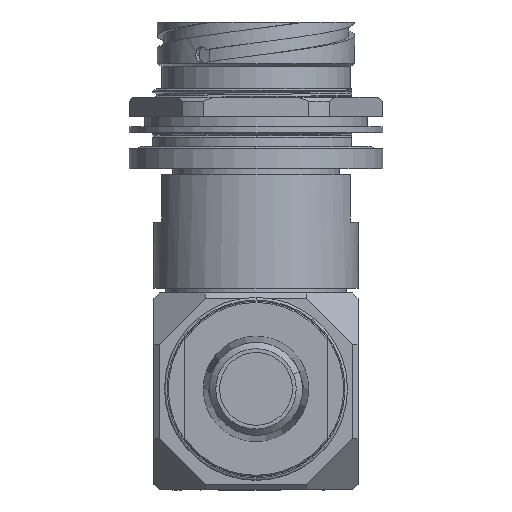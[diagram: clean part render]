
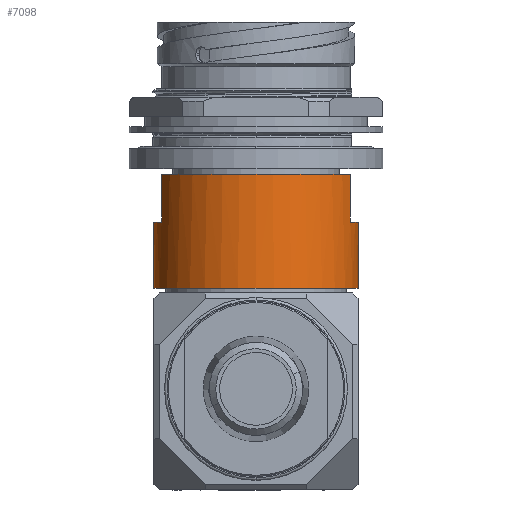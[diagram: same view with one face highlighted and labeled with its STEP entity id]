
A CAD part, front view. The second image highlights one B-rep face of the part: STEP entity #7098.
In plain terms, the highlighted cylindrical face has radius 20.447 mm (diameter 40.894 mm), a partial arc.
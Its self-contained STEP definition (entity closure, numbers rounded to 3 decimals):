
#83 = CARTESIAN_POINT ( 'NONE',  ( 18.796, -8.049, -30.328 ) ) ;
#1196 = EDGE_CURVE ( 'NONE', #6498, #8270, #20455, .T. ) ;
#1426 = EDGE_CURVE ( 'NONE', #11090, #14291, #17812, .T. ) ;
#1549 = AXIS2_PLACEMENT_3D ( 'NONE', #16139, #17998, #2817 ) ;
#1737 = CYLINDRICAL_SURFACE ( 'NONE', #15496, 20.447 ) ;
#1987 = CIRCLE ( 'NONE', #5558, 20.447 ) ;
#2817 = DIRECTION ( 'NONE',  ( 1., 0., 0. ) ) ;
#3221 = ORIENTED_EDGE ( 'NONE', *, *, #17745, .F. ) ;
#3642 = CARTESIAN_POINT ( 'NONE',  ( 0., 0., -39.853 ) ) ;
#3736 = ORIENTED_EDGE ( 'NONE', *, *, #1196, .T. ) ;
#4511 = LINE ( 'NONE', #12099, #8709 ) ;
#5558 = AXIS2_PLACEMENT_3D ( 'NONE', #22030, #10702, #14076 ) ;
#5883 = ORIENTED_EDGE ( 'NONE', *, *, #13841, .T. ) ;
#6045 = VERTEX_POINT ( 'NONE', #21693 ) ;
#6498 = VERTEX_POINT ( 'NONE', #6829 ) ;
#6829 = CARTESIAN_POINT ( 'NONE',  ( -20.447, 0., -39.853 ) ) ;
#6893 = LINE ( 'NONE', #8384, #17706 ) ;
#7002 = VECTOR ( 'NONE', #12213, 1000. ) ;
#7098 = ADVANCED_FACE ( 'NONE', ( #15311 ), #1737, .T. ) ;
#7597 = ORIENTED_EDGE ( 'NONE', *, *, #1426, .F. ) ;
#7599 = EDGE_CURVE ( 'NONE', #6045, #8270, #20635, .T. ) ;
#8270 = VERTEX_POINT ( 'NONE', #24286 ) ;
#8384 = CARTESIAN_POINT ( 'NONE',  ( -18.796, -8.049, -30.328 ) ) ;
#8709 = VECTOR ( 'NONE', #23555, 1000. ) ;
#8934 = CARTESIAN_POINT ( 'NONE',  ( 20.447, 0., -39.853 ) ) ;
#9079 = DIRECTION ( 'NONE',  ( 1., 0., 0. ) ) ;
#9303 = ORIENTED_EDGE ( 'NONE', *, *, #7599, .F. ) ;
#9346 = CARTESIAN_POINT ( 'NONE',  ( -18.796, -8.049, -30.328 ) ) ;
#9354 = DIRECTION ( 'NONE',  ( 0., 0., -1. ) ) ;
#9452 = ORIENTED_EDGE ( 'NONE', *, *, #11803, .F. ) ;
#10396 = CARTESIAN_POINT ( 'NONE',  ( 18.796, -8.049, -39.853 ) ) ;
#10639 = DIRECTION ( 'NONE',  ( 1., 0., 0. ) ) ;
#10702 = DIRECTION ( 'NONE',  ( 0., 0., 1. ) ) ;
#10887 = CARTESIAN_POINT ( 'NONE',  ( 0., 0., -30.328 ) ) ;
#11080 = CARTESIAN_POINT ( 'NONE',  ( 0., 0., -30.328 ) ) ;
#11090 = VERTEX_POINT ( 'NONE', #10396 ) ;
#11803 = EDGE_CURVE ( 'NONE', #16757, #20793, #6893, .T. ) ;
#12011 = CARTESIAN_POINT ( 'NONE',  ( -18.796, -8.049, -39.853 ) ) ;
#12013 = EDGE_CURVE ( 'NONE', #19404, #11090, #21927, .T. ) ;
#12099 = CARTESIAN_POINT ( 'NONE',  ( 20.447, 0., -30.328 ) ) ;
#12213 = DIRECTION ( 'NONE',  ( 0., 0., -1. ) ) ;
#12637 = DIRECTION ( 'NONE',  ( 0., 0., -1. ) ) ;
#12829 = VECTOR ( 'NONE', #9354, 1000. ) ;
#13731 = ORIENTED_EDGE ( 'NONE', *, *, #17587, .F. ) ;
#13841 = EDGE_CURVE ( 'NONE', #19404, #20793, #19517, .T. ) ;
#14076 = DIRECTION ( 'NONE',  ( 0., 1., 0. ) ) ;
#14291 = VERTEX_POINT ( 'NONE', #8934 ) ;
#15154 = AXIS2_PLACEMENT_3D ( 'NONE', #10887, #12637, #10639 ) ;
#15311 = FACE_OUTER_BOUND ( 'NONE', #18559, .T. ) ;
#15496 = AXIS2_PLACEMENT_3D ( 'NONE', #11080, #20663, #9079 ) ;
#15990 = DIRECTION ( 'NONE',  ( 0., 0., 1. ) ) ;
#16139 = CARTESIAN_POINT ( 'NONE',  ( 0., 0., -53.01 ) ) ;
#16627 = AXIS2_PLACEMENT_3D ( 'NONE', #3642, #24317, #16830 ) ;
#16757 = VERTEX_POINT ( 'NONE', #12011 ) ;
#16830 = DIRECTION ( 'NONE',  ( 1., 0., 0. ) ) ;
#17587 = EDGE_CURVE ( 'NONE', #14291, #6045, #4511, .T. ) ;
#17693 = CARTESIAN_POINT ( 'NONE',  ( 18.796, -8.049, -30.328 ) ) ;
#17706 = VECTOR ( 'NONE', #15990, 1000. ) ;
#17745 = EDGE_CURVE ( 'NONE', #6498, #16757, #1987, .T. ) ;
#17812 = CIRCLE ( 'NONE', #16627, 20.447 ) ;
#17998 = DIRECTION ( 'NONE',  ( 0., 0., -1. ) ) ;
#18559 = EDGE_LOOP ( 'NONE', ( #3221, #3736, #9303, #13731, #7597, #22664, #5883, #9452 ) ) ;
#18822 = CARTESIAN_POINT ( 'NONE',  ( -20.447, 0., -30.328 ) ) ;
#19404 = VERTEX_POINT ( 'NONE', #83 ) ;
#19517 = CIRCLE ( 'NONE', #15154, 20.447 ) ;
#20455 = LINE ( 'NONE', #18822, #12829 ) ;
#20635 = CIRCLE ( 'NONE', #1549, 20.447 ) ;
#20663 = DIRECTION ( 'NONE',  ( 0., 0., -1. ) ) ;
#20793 = VERTEX_POINT ( 'NONE', #9346 ) ;
#21693 = CARTESIAN_POINT ( 'NONE',  ( 20.447, 0., -53.01 ) ) ;
#21927 = LINE ( 'NONE', #17693, #7002 ) ;
#22030 = CARTESIAN_POINT ( 'NONE',  ( 0., 0., -39.853 ) ) ;
#22664 = ORIENTED_EDGE ( 'NONE', *, *, #12013, .F. ) ;
#23555 = DIRECTION ( 'NONE',  ( 0., 0., -1. ) ) ;
#24286 = CARTESIAN_POINT ( 'NONE',  ( -20.447, 0., -53.01 ) ) ;
#24317 = DIRECTION ( 'NONE',  ( 0., 0., 1. ) ) ;
